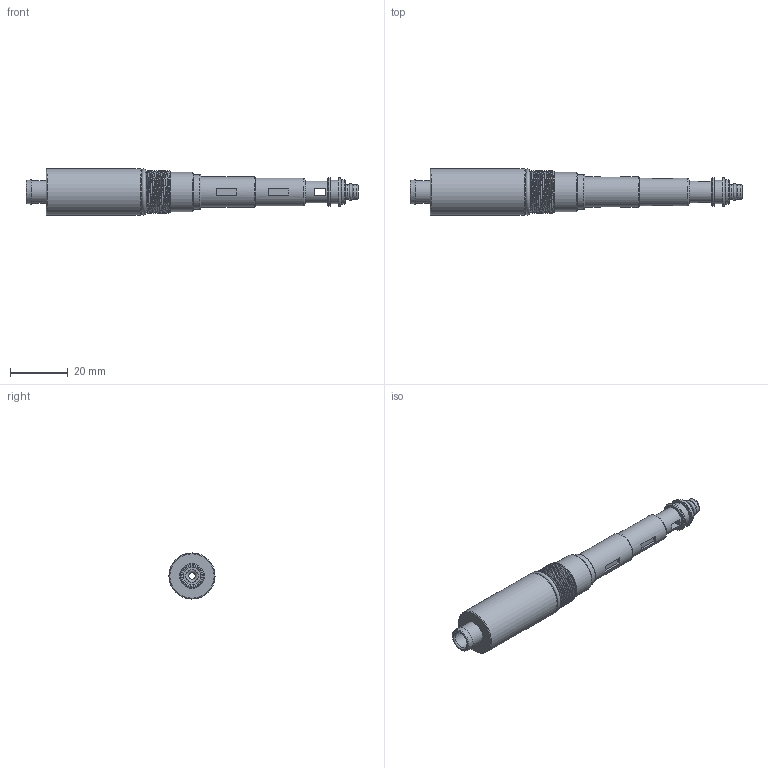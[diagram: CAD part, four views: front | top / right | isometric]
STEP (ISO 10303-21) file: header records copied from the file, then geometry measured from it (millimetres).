
FILE_DESCRIPTION( ( 'STEP AP203' ), '1' );
FILE_NAME( 'D:/撲啗紫賊-02/撲啗紫賊-02/project-06/Vacuum Cartridge-3D/VC203DS.stp', '2007-05-25T06:05:46', ( ' ' ), ( ' ' ), 'XStep 1.0', ' ', ' ' );
FILE_SCHEMA( ( 'CONFIG_CONTROL_DESIGN) ( )' ) );
Length unit declared in the file: metre
Products named in the file (1): 1
Bounding box: 115 x 15.96 x 15.96 mm (x, y, z)
Volume: 12982.1 mm3; surface area: 6205.3 mm2
Topology: 1 solids, 1 shells, 100 faces, 199 edges, 125 vertices
Faces by surface type: plane 47, cylinder 24, torus 18, cone 8, bspline 3
Full cylindrical faces by diameter (mm): 2.3 x2, 3.6 x1, 3.8 x2, 4.846 x1, 5.2 x2, 6 x1, 7.6 x1, 7.964 x1, 8 x1, 8.4 x1, 9.6 x1, 10 x2, 10.6 x1, 11.9 x1, 12.964 x1, 13.564 x1, 14.828 x1, 15.964 x1
Entity records: 5188 total; most frequent: CARTESIAN_POINT 3252, DIRECTION 410, ORIENTED_EDGE 292, AXIS2_PLACEMENT_3D 180, EDGE_LOOP 176, EDGE_CURVE 146, FACE_OUTER_BOUND 139, VERTEX_POINT 120
